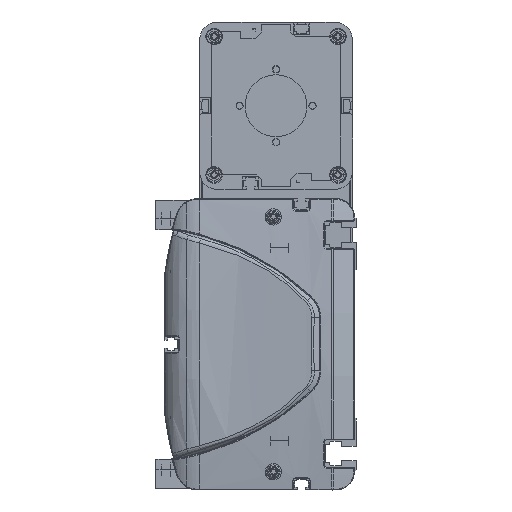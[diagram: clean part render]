
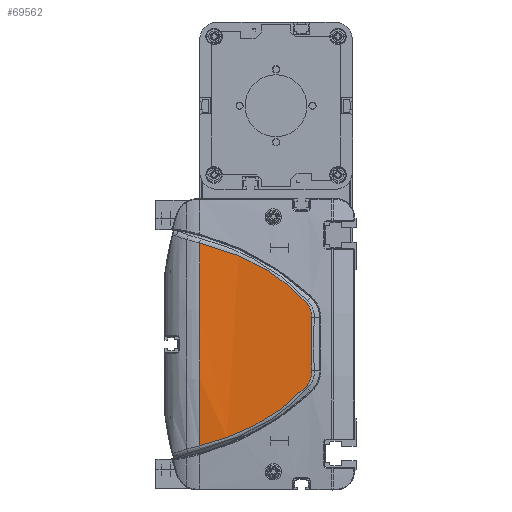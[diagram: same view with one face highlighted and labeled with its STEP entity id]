
A CAD part, left-side view. The second image highlights one B-rep face of the part: STEP entity #69562.
In plain terms, the highlighted cylindrical face has radius 600 mm (diameter 1200 mm), a partial arc.
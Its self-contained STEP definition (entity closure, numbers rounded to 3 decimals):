
#64592=CARTESIAN_POINT('',(-12.406,86.,
55.736));
#64593=CARTESIAN_POINT('',(-12.529,80.495,
54.41));
#64594=CARTESIAN_POINT('',(-12.828,69.636,
51.114));
#64595=CARTESIAN_POINT('',(-13.389,54.079,
44.179));
#64596=CARTESIAN_POINT('',(-14.01,39.709,
34.979));
#64597=CARTESIAN_POINT('',(-14.395,31.353,
27.243));
#64598=CARTESIAN_POINT('',(-14.555,27.451,
23.113));
#64600=CARTESIAN_POINT('',(-14.555,27.451,
23.113));
#64601=CARTESIAN_POINT('',(-14.641,25.336,
20.875));
#64602=CARTESIAN_POINT('',(-14.745,24.202,
17.745));
#64603=CARTESIAN_POINT('',(-14.821,24.351,
14.67));
#64605=CARTESIAN_POINT('',(-14.821,24.351,
14.67));
#64606=CARTESIAN_POINT('',(-14.9,24.51,
11.413));
#64607=CARTESIAN_POINT('',(-15.007,24.721,
4.895));
#64608=CARTESIAN_POINT('',(-15.007,24.721,
-4.895));
#64609=CARTESIAN_POINT('',(-14.9,24.51,
-11.413));
#64610=CARTESIAN_POINT('',(-14.821,24.351,
-14.67));
#64612=CARTESIAN_POINT('',(-14.821,24.351,
-14.67));
#64613=CARTESIAN_POINT('',(-14.745,24.202,
-17.745));
#64614=CARTESIAN_POINT('',(-14.641,25.337,
-20.876));
#64615=CARTESIAN_POINT('',(-14.555,27.451,
-23.113));
#64617=CARTESIAN_POINT('',(-14.555,27.451,
-23.113));
#64618=CARTESIAN_POINT('',(-14.395,31.353,
-27.243));
#64619=CARTESIAN_POINT('',(-14.01,39.709,
-34.979));
#64620=CARTESIAN_POINT('',(-13.389,54.079,
-44.179));
#64621=CARTESIAN_POINT('',(-12.828,69.636,
-51.114));
#64622=CARTESIAN_POINT('',(-12.529,80.495,
-54.41));
#64623=CARTESIAN_POINT('',(-12.406,86.,
-55.736));
#64625=CARTESIAN_POINT('',(585.,86.,0.));
#64626=DIRECTION('',(0.,1.,0.));
#64627=DIRECTION('',(-0.996,0.,-0.093));
#64628=AXIS2_PLACEMENT_3D('',#64625,#64626,#64627);
#64641=CARTESIAN_POINT('',(-12.406,86.,
55.736));
#65148=VERTEX_POINT('',#64641);
#65149=CARTESIAN_POINT('',(-12.406,86.,
-55.736));
#65150=VERTEX_POINT('',#65149);
#65202=VERTEX_POINT('',#64598);
#65203=VERTEX_POINT('',#64603);
#65204=VERTEX_POINT('',#64610);
#65205=VERTEX_POINT('',#64615);
#69544=CARTESIAN_POINT('',(585.,87.45,0.));
#69545=DIRECTION('',(0.,-1.,0.));
#69546=DIRECTION('',(0.,0.,-1.));
#69547=AXIS2_PLACEMENT_3D('',#69544,#69545,#69546);
#69548=CYLINDRICAL_SURFACE('',#69547,600.);
#69550=ORIENTED_EDGE('',*,*,#69549,.T.);
#69552=ORIENTED_EDGE('',*,*,#69551,.T.);
#69553=ORIENTED_EDGE('',*,*,#69534,.T.);
#69555=ORIENTED_EDGE('',*,*,#69554,.T.);
#69557=ORIENTED_EDGE('',*,*,#69556,.T.);
#69559=ORIENTED_EDGE('',*,*,#69558,.T.);
#69560=EDGE_LOOP('',(#69550,#69552,#69553,#69555,#69557,#69559));
#69561=FACE_OUTER_BOUND('',#69560,.F.);
#69562=ADVANCED_FACE('',(#69561),#69548,.T.);
#64599=B_SPLINE_CURVE_WITH_KNOTS('',3,(#64592,#64593,#64594,#64595,#64596,
#64597,#64598),.UNSPECIFIED.,.F.,.F.,(4,1,1,1,4),(0.,0.25,0.5,0.75,
1.),.UNSPECIFIED.);
#64604=B_SPLINE_CURVE_WITH_KNOTS('',3,(#64600,#64601,#64602,#64603),
.UNSPECIFIED.,.F.,.F.,(4,4),(0.,1.),.UNSPECIFIED.);
#64611=B_SPLINE_CURVE_WITH_KNOTS('',3,(#64605,#64606,#64607,#64608,#64609,
#64610),.UNSPECIFIED.,.F.,.F.,(4,1,1,4),(0.,0.333,
0.667,1.),.UNSPECIFIED.);
#64616=B_SPLINE_CURVE_WITH_KNOTS('',3,(#64612,#64613,#64614,#64615),
.UNSPECIFIED.,.F.,.F.,(4,4),(0.,1.),.UNSPECIFIED.);
#64624=B_SPLINE_CURVE_WITH_KNOTS('',3,(#64617,#64618,#64619,#64620,#64621,
#64622,#64623),.UNSPECIFIED.,.F.,.F.,(4,1,1,1,4),(0.,0.25,0.5,0.75,
1.),.UNSPECIFIED.);
#64629=CIRCLE('',#64628,600.);
#69534=EDGE_CURVE('',#65203,#65204,#64611,.T.);
#69549=EDGE_CURVE('',#65148,#65202,#64599,.T.);
#69551=EDGE_CURVE('',#65202,#65203,#64604,.T.);
#69554=EDGE_CURVE('',#65204,#65205,#64616,.T.);
#69556=EDGE_CURVE('',#65205,#65150,#64624,.T.);
#69558=EDGE_CURVE('',#65150,#65148,#64629,.T.);
